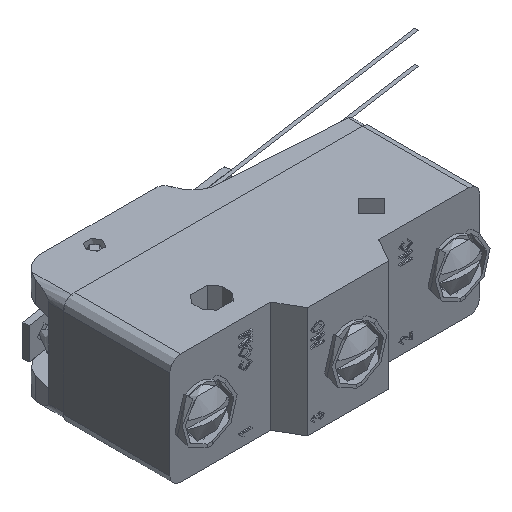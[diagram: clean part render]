
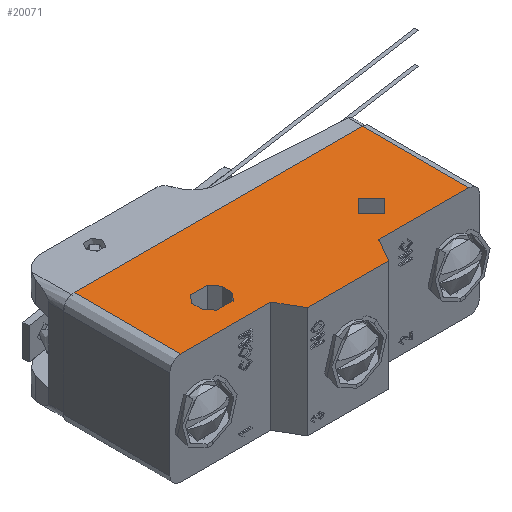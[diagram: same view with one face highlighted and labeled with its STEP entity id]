
A CAD part, isometric view. The second image highlights one B-rep face of the part: STEP entity #20071.
In plain terms, the highlighted planar face has unit normal (0, 0, 1).
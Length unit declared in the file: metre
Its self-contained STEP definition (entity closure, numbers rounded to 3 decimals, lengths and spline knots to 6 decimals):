
#15588=CARTESIAN_POINT('',(-0.023728,0.009244,0.05825));
#15589=VERTEX_POINT('',#15588);
#15607=CARTESIAN_POINT('',(-0.023728,-0.007756,0.05825));
#15608=VERTEX_POINT('',#15607);
#15611=CARTESIAN_POINT('',(-0.023728,-0.003156,0.05825));
#15612=DIRECTION('',(0.,-1.,0.));
#15613=VECTOR('',#15612,1.);
#15614=LINE('',#15611,#15613);
#15615=EDGE_CURVE('',#15589,#15608,#15614,.T.);
#16949=CARTESIAN_POINT('',(-0.007242,-0.011456,0.05825));
#16950=VERTEX_POINT('',#16949);
#16953=CARTESIAN_POINT('',(-0.009378,-0.007756,0.05825));
#16954=DIRECTION('',(0.5,-0.866,0.));
#16955=VECTOR('',#16954,1.);
#16956=LINE('',#16953,#16955);
#16957=CARTESIAN_POINT('',(-0.009378,-0.007756,0.05825));
#16958=VERTEX_POINT('',#16957);
#16959=EDGE_CURVE('',#16958,#16950,#16956,.T.);
#17684=CARTESIAN_POINT('',(0.005686,-0.011456,0.05825));
#17685=VERTEX_POINT('',#17684);
#17688=CARTESIAN_POINT('',(-0.007242,-0.011456,0.05825));
#17689=DIRECTION('',(1.,0.,0.));
#17690=VECTOR('',#17689,1.);
#17691=LINE('',#17688,#17690);
#17692=EDGE_CURVE('',#16950,#17685,#17691,.T.);
#17823=CARTESIAN_POINT('',(0.007822,-0.007756,0.05825));
#17824=VERTEX_POINT('',#17823);
#17827=CARTESIAN_POINT('',(0.005686,-0.011456,0.05825));
#17828=DIRECTION('',(0.5,0.866,0.));
#17829=VECTOR('',#17828,1.);
#17830=LINE('',#17827,#17829);
#17831=EDGE_CURVE('',#17685,#17824,#17830,.T.);
#17855=CARTESIAN_POINT('',(0.022172,-0.007756,0.05825));
#17856=VERTEX_POINT('',#17855);
#17874=CARTESIAN_POINT('',(0.022172,0.009244,0.05825));
#17875=VERTEX_POINT('',#17874);
#17878=CARTESIAN_POINT('',(0.022172,-0.003156,0.05825));
#17879=DIRECTION('',(0.,1.,0.));
#17880=VECTOR('',#17879,1.);
#17881=LINE('',#17878,#17880);
#17882=EDGE_CURVE('',#17856,#17875,#17881,.T.);
#19697=CARTESIAN_POINT('',(0.007822,-0.007756,0.05825));
#19698=DIRECTION('',(1.,0.,0.));
#19699=VECTOR('',#19698,1.);
#19700=LINE('',#19697,#19699);
#19701=EDGE_CURVE('',#17824,#17856,#19700,.T.);
#19790=CARTESIAN_POINT('',(0.023922,0.009244,0.05825));
#19791=DIRECTION('',(-1.,0.,0.));
#19792=VECTOR('',#19791,1.);
#19793=LINE('',#19790,#19792);
#19794=EDGE_CURVE('',#17875,#15589,#19793,.T.);
#19827=CARTESIAN_POINT('',(-0.014834,-0.004556,0.05825));
#19828=VERTEX_POINT('',#19827);
#19831=CARTESIAN_POINT('',(-0.012121,-0.004556,0.05825));
#19832=DIRECTION('',(1.,0.,0.));
#19833=VECTOR('',#19832,1.);
#19834=LINE('',#19831,#19833);
#19835=CARTESIAN_POINT('',(-0.012121,-0.004556,0.05825));
#19836=VERTEX_POINT('',#19835);
#19837=EDGE_CURVE('',#19828,#19836,#19834,.T.);
#19874=CARTESIAN_POINT('',(-0.014834,-0.000356,0.05825));
#19875=VERTEX_POINT('',#19874);
#19878=CARTESIAN_POINT('',(-0.013478,-0.002456,0.05825));
#19879=DIRECTION('',(0.,0.,1.));
#19880=DIRECTION('',(1.,0.,0.));
#19881=AXIS2_PLACEMENT_3D('',#19878,#19879,#19880);
#19882=CIRCLE('',#19881,0.0025);
#19883=EDGE_CURVE('',#19875,#19828,#19882,.T.);
#19902=CARTESIAN_POINT('',(0.011922,-0.002456,0.05825));
#19903=DIRECTION('',(0.,0.,1.));
#19904=DIRECTION('',(1.,0.,0.));
#19905=AXIS2_PLACEMENT_3D('',#19902,#19903,#19904);
#19906=CIRCLE('',#19905,0.0021);
#19907=CARTESIAN_POINT('',(0.009822,-0.002456,0.05825));
#19908=VERTEX_POINT('',#19907);
#19909=EDGE_CURVE('',#19908,#19908,#19906,.T.);
#19989=CARTESIAN_POINT('',(-0.013478,-0.002456,0.05825));
#19990=DIRECTION('',(0.,0.,1.));
#19991=DIRECTION('',(1.,0.,0.));
#19992=AXIS2_PLACEMENT_3D('',#19989,#19990,#19991);
#19993=CIRCLE('',#19992,0.0025);
#19994=CARTESIAN_POINT('',(-0.012121,-0.000356,0.05825));
#19995=VERTEX_POINT('',#19994);
#19996=EDGE_CURVE('',#19836,#19995,#19993,.T.);
#20023=CARTESIAN_POINT('',(-0.012121,-0.000356,0.05825));
#20024=DIRECTION('',(-1.,0.,0.));
#20025=VECTOR('',#20024,1.);
#20026=LINE('',#20023,#20025);
#20027=EDGE_CURVE('',#19995,#19875,#20026,.T.);
#20042=CARTESIAN_POINT('',(0.012562,-0.003156,0.05825));
#20043=DIRECTION('',(0.,0.,-1.));
#20044=DIRECTION('',(-1.,0.,0.));
#20045=AXIS2_PLACEMENT_3D('',#20042,#20043,#20044);
#20046=PLANE('',#20045);
#20047=ORIENTED_EDGE('',*,*,#20027,.F.);
#20048=ORIENTED_EDGE('',*,*,#19996,.F.);
#20049=ORIENTED_EDGE('',*,*,#19837,.F.);
#20050=ORIENTED_EDGE('',*,*,#19883,.F.);
#20051=EDGE_LOOP('',(#20047,#20048,#20049,#20050));
#20052=FACE_BOUND('',#20051,.T.);
#20053=ORIENTED_EDGE('',*,*,#19909,.F.);
#20054=EDGE_LOOP('',(#20053));
#20055=FACE_BOUND('',#20054,.T.);
#20056=ORIENTED_EDGE('',*,*,#19701,.T.);
#20057=ORIENTED_EDGE('',*,*,#17882,.T.);
#20058=ORIENTED_EDGE('',*,*,#19794,.T.);
#20059=ORIENTED_EDGE('',*,*,#15615,.T.);
#20060=CARTESIAN_POINT('',(-0.025478,-0.007756,0.05825));
#20061=DIRECTION('',(1.,0.,0.));
#20062=VECTOR('',#20061,1.);
#20063=LINE('',#20060,#20062);
#20064=EDGE_CURVE('',#15608,#16958,#20063,.T.);
#20065=ORIENTED_EDGE('',*,*,#20064,.T.);
#20066=ORIENTED_EDGE('',*,*,#16959,.T.);
#20067=ORIENTED_EDGE('',*,*,#17692,.T.);
#20068=ORIENTED_EDGE('',*,*,#17831,.T.);
#20069=EDGE_LOOP('',(#20056,#20057,#20058,#20059,#20065,#20066,#20067,#20068));
#20070=FACE_BOUND('',#20069,.T.);
#20071=ADVANCED_FACE('',(#20052,#20055,#20070),#20046,.F.);
